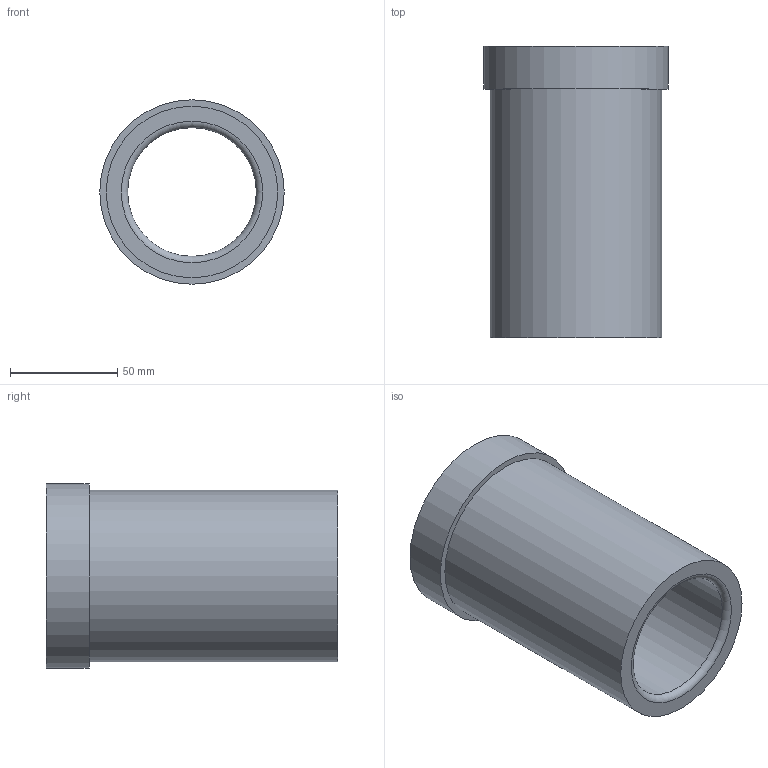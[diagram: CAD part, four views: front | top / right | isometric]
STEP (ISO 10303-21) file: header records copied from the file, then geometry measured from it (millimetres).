
FILE_DESCRIPTION(/* description */ ('STEP AP214'),/* implementation_level */ '2;1');
FILE_NAME(/* name */ '03_12_17965',/* time_stamp */ '2023-06-15T11:35:49+02:00',/* author */ ('License CC BY-ND 4.0'),/* organization */ ('CADENAS'),/* preprocessor_version */ 'ST-DEVELOPER v19.3',/* originating_system */ 'PARTsolutions',/* authorisation */ ' ');
FILE_SCHEMA (('AUTOMOTIVE_DESIGN {1 0 10303 214 3 1 1}'));
Length unit declared in the file: millimetre
Products named in the file (1): VA_Bushing_17965
Bounding box: 86 x 136 x 86 mm (x, y, z)
Volume: 312430.9 mm3; surface area: 65727.1 mm2
Topology: 1 solids, 1 shells, 10 faces, 16 edges, 10 vertices
Faces by surface type: cylinder 4, plane 4, torus 2
Full cylindrical faces by diameter (mm): 60 x1, 60.6 x1, 80 x1, 86 x1
Entity records: 302 total; most frequent: DIRECTION 42, CARTESIAN_POINT 31, AXIS2_PLACEMENT_3D 21, ORIENTED_EDGE 20, EDGE_LOOP 20, FACE_BOUND 20, EDGE_CURVE 10, VERTEX_POINT 10
